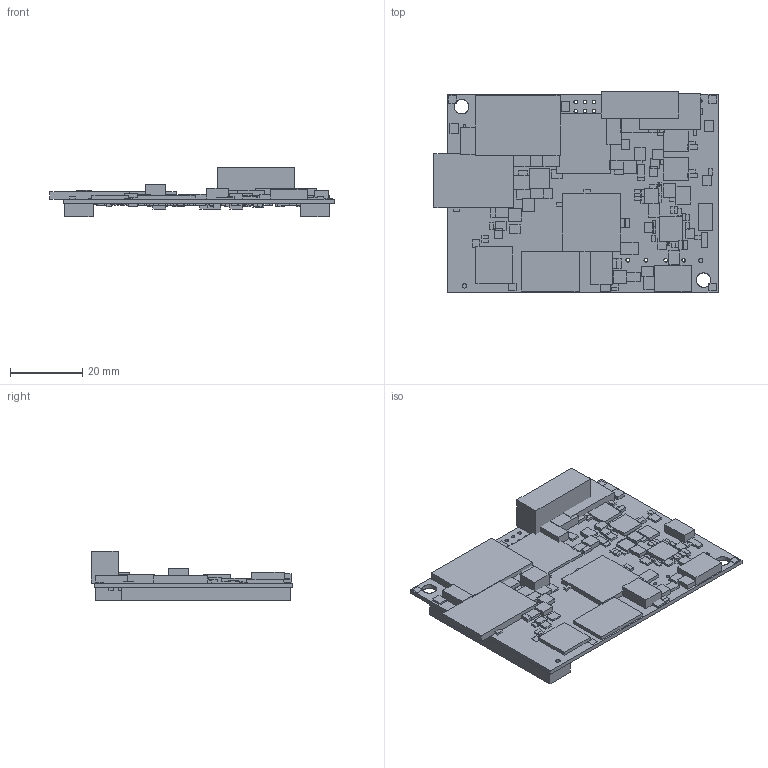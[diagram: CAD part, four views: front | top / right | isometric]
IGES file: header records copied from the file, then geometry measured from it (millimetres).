
Start section: SolidWorks IGES file using analytic representation for surfaces
Global section: file name: U:\eng\3d\TS-4100\Rev-B\ts4100_b_part.IGS; native system: SolidWorks 2015; preprocessor: SolidWorks 2015; author: jkoon; date: 171206.153757; units: millimetre
Bounding box: 78.65 x 55.77 x 13.67 mm (x, y, z)
Surface area: 20543.7 mm2 (no closed solid volume)
Topology: 0 solids, 0 shells, 1806 faces, 8440 edges, 8440 vertices
Faces by surface type: bspline 1734, revolution 72
